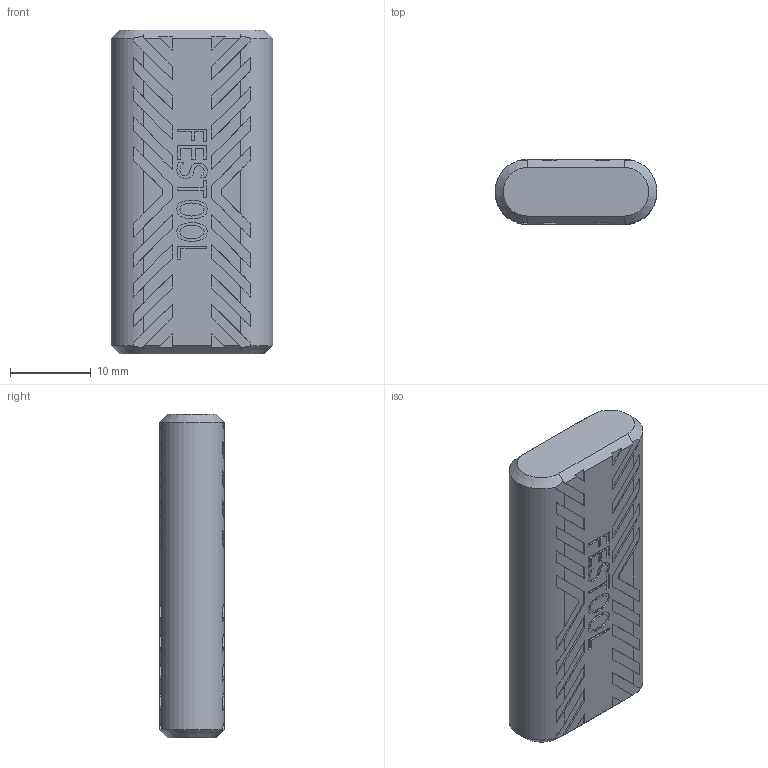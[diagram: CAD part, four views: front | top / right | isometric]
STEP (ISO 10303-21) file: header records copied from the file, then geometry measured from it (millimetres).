
FILE_DESCRIPTION(('Creo Elements/Direct Modeling STEP Export'),'2;1');
FILE_NAME('Domino_8x40.stp','2024-01-19T 8:05:30',(''),(''),'Creo Elements/Direct Modeling STEP processor for AP214 (Solid Model)','Creo Elements/Direct Modeling 20.5A 14-Oct-2022 (C) Parametric Technology GmbH','');
FILE_SCHEMA(('AUTOMOTIVE_DESIGN { 1 0 10303 214 1 1 1 1 }'));
Length unit declared in the file: millimetre
Products named in the file (1): 8x40_00464309
Bounding box: 19.97 x 8 x 40 mm (x, y, z)
Volume: 5734 mm3; surface area: 2362.1 mm2
Topology: 1 solids, 1 shells, 728 faces, 2100 edges, 1400 vertices
Faces by surface type: plane 722, cone 4, cylinder 2
Entity records: 22951 total; most frequent: CARTESIAN_POINT 4272, ORIENTED_EDGE 4200, DIRECTION 3394, EDGE_CURVE 2100, VECTOR 1898, LINE 1898, VERTEX_POINT 1400, EDGE_LOOP 754
